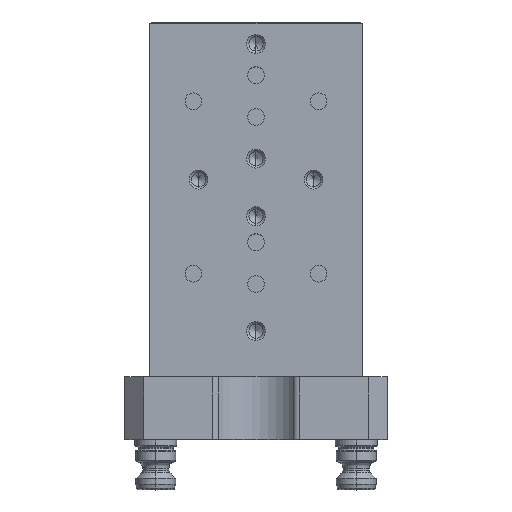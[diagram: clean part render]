
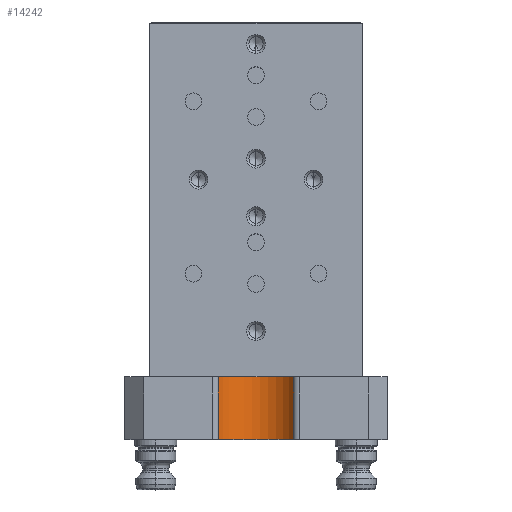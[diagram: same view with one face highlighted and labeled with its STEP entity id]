
A CAD part, top view. The second image highlights one B-rep face of the part: STEP entity #14242.
In plain terms, the highlighted cylindrical face has radius 22.098 mm (diameter 44.196 mm), a partial arc.
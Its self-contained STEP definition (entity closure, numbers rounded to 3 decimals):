
#25 = CYLINDRICAL_SURFACE ( 'NONE', #538, 22.098 ) ;
#294 = EDGE_CURVE ( 'NONE', #10593, #9731, #13090, .T. ) ;
#538 = AXIS2_PLACEMENT_3D ( 'NONE', #747, #9294, #692 ) ;
#692 = DIRECTION ( 'NONE',  ( 1., 0., 0. ) ) ;
#747 = CARTESIAN_POINT ( 'NONE',  ( 0., -74.135, 0. ) ) ;
#753 = EDGE_LOOP ( 'NONE', ( #15497, #8419, #6749, #13699 ) ) ;
#1197 = CARTESIAN_POINT ( 'NONE',  ( 18.133, -61.505, 0. ) ) ;
#1233 = LINE ( 'NONE', #1680, #4158 ) ;
#1680 = CARTESIAN_POINT ( 'NONE',  ( -18.133, -61.505, 0. ) ) ;
#2861 = EDGE_CURVE ( 'NONE', #9731, #6364, #1233, .T. ) ;
#3624 = DIRECTION ( 'NONE',  ( 0., 0., 1. ) ) ;
#3721 = VERTEX_POINT ( 'NONE', #12580 ) ;
#3935 = CARTESIAN_POINT ( 'NONE',  ( -18.133, -61.505, 30. ) ) ;
#4158 = VECTOR ( 'NONE', #9004, 1000. ) ;
#4839 = CIRCLE ( 'NONE', #10579, 22.098 ) ;
#5712 = LINE ( 'NONE', #1197, #12184 ) ;
#6192 = CARTESIAN_POINT ( 'NONE',  ( 0., -74.135, 30. ) ) ;
#6364 = VERTEX_POINT ( 'NONE', #6805 ) ;
#6749 = ORIENTED_EDGE ( 'NONE', *, *, #294, .T. ) ;
#6805 = CARTESIAN_POINT ( 'NONE',  ( -18.133, -61.505, 0. ) ) ;
#7097 = CARTESIAN_POINT ( 'NONE',  ( 0., -74.135, 0. ) ) ;
#8339 = DIRECTION ( 'NONE',  ( 1., 0., 0. ) ) ;
#8419 = ORIENTED_EDGE ( 'NONE', *, *, #10907, .T. ) ;
#9004 = DIRECTION ( 'NONE',  ( 0., 0., -1. ) ) ;
#9294 = DIRECTION ( 'NONE',  ( 0., 0., 1. ) ) ;
#9731 = VERTEX_POINT ( 'NONE', #3935 ) ;
#9787 = FACE_OUTER_BOUND ( 'NONE', #753, .T. ) ;
#10579 = AXIS2_PLACEMENT_3D ( 'NONE', #7097, #15525, #8339 ) ;
#10593 = VERTEX_POINT ( 'NONE', #14574 ) ;
#10907 = EDGE_CURVE ( 'NONE', #3721, #10593, #5712, .T. ) ;
#11040 = AXIS2_PLACEMENT_3D ( 'NONE', #6192, #13458, #12266 ) ;
#12184 = VECTOR ( 'NONE', #3624, 1000. ) ;
#12266 = DIRECTION ( 'NONE',  ( 1., 0., 0. ) ) ;
#12580 = CARTESIAN_POINT ( 'NONE',  ( 18.133, -61.505, 0. ) ) ;
#13090 = CIRCLE ( 'NONE', #11040, 22.098 ) ;
#13458 = DIRECTION ( 'NONE',  ( 0., 0., 1. ) ) ;
#13699 = ORIENTED_EDGE ( 'NONE', *, *, #2861, .T. ) ;
#14242 = ADVANCED_FACE ( 'NONE', ( #9787 ), #25, .F. ) ;
#14574 = CARTESIAN_POINT ( 'NONE',  ( 18.133, -61.505, 30. ) ) ;
#14877 = EDGE_CURVE ( 'NONE', #3721, #6364, #4839, .T. ) ;
#15497 = ORIENTED_EDGE ( 'NONE', *, *, #14877, .F. ) ;
#15525 = DIRECTION ( 'NONE',  ( 0., 0., 1. ) ) ;
